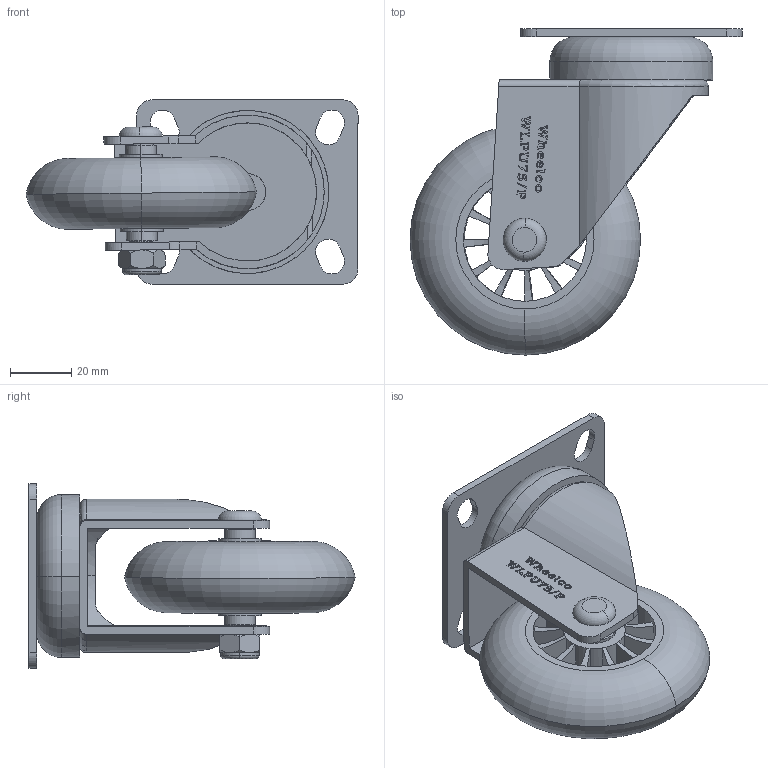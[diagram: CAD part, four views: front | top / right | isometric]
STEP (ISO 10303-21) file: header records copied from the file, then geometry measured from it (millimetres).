
FILE_DESCRIPTION (( 'STEP AP214' ), '1' );
FILE_NAME ('WLPU75-P.step', '2024-01-18T00:23:38', ( '' ), ( '' ), 'SwSTEP 2.0', 'SolidWorks 2022', '' );
FILE_SCHEMA (( 'AUTOMOTIVE_DESIGN' ));
Length unit declared in the file: millimetre
Products named in the file (6): 72x60; WL bolt 50mm-8mm dia; M8Nyloc-WHITE; WLPU75; WL75-P; WLPU75-P
Assembly tree (5 placements, depth 2):
  WLPU75-P
    WL75-P
    WL bolt 50mm-8mm dia
    WLPU75
    M8Nyloc-WHITE
    72x60
Bounding box: 108 x 106.1 x 60 mm (x, y, z)
Volume: 126929.3 mm3; surface area: 50732.7 mm2
Topology: 5 solids, 5 shells, 541 faces, 1468 edges, 951 vertices
Faces by surface type: plane 277, cylinder 116, bspline 97, torus 35, cone 14, sphere 2
Entity records: 24626 total; most frequent: CARTESIAN_POINT 11281, ORIENTED_EDGE 2932, DIRECTION 2356, EDGE_CURVE 1466, VERTEX_POINT 951, LINE 880, VECTOR 880, AXIS2_PLACEMENT_3D 738
